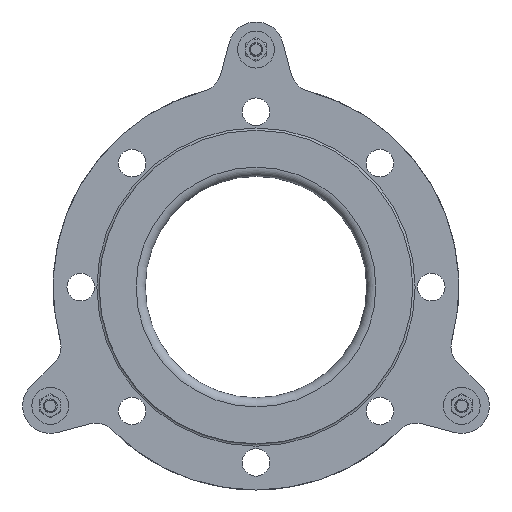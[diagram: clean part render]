
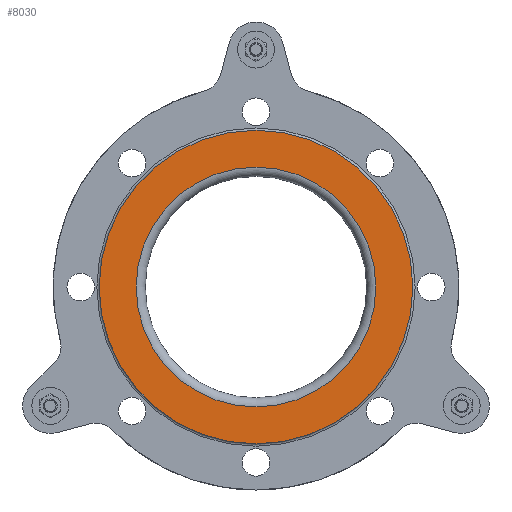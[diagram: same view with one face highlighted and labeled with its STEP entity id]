
A CAD part, left-side view. The second image highlights one B-rep face of the part: STEP entity #8030.
In plain terms, the highlighted planar face has unit normal (-1, 0, 0).
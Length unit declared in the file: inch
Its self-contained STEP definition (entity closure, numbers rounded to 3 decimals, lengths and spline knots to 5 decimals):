
#1359=FACE_BOUND('',#2499,.T.);
#1809=FACE_OUTER_BOUND('',#2498,.T.);
#2498=EDGE_LOOP('',(#6545));
#2499=EDGE_LOOP('',(#6546));
#3009=CIRCLE('',#8933,4.25);
#3010=CIRCLE('',#8935,3.25);
#3648=VERTEX_POINT('',#14304);
#3649=VERTEX_POINT('',#14307);
#4628=EDGE_CURVE('',#3648,#3648,#3009,.T.);
#4629=EDGE_CURVE('',#3649,#3649,#3010,.T.);
#6545=ORIENTED_EDGE('',*,*,#4628,.T.);
#6546=ORIENTED_EDGE('',*,*,#4629,.F.);
#7071=PLANE('',#8934);
#8030=ADVANCED_FACE('',(#1809,#1359),#7071,.T.);
#8933=AXIS2_PLACEMENT_3D('',#14305,#10894,#10895);
#8934=AXIS2_PLACEMENT_3D('',#14306,#10896,#10897);
#8935=AXIS2_PLACEMENT_3D('',#14308,#10898,#10899);
#10894=DIRECTION('center_axis',(-1.,0.,0.));
#10895=DIRECTION('ref_axis',(0.,-1.,0.));
#10896=DIRECTION('center_axis',(-1.,0.,0.));
#10897=DIRECTION('ref_axis',(0.,-1.,0.));
#10898=DIRECTION('center_axis',(-1.,0.,0.));
#10899=DIRECTION('ref_axis',(0.,-1.,0.));
#14304=CARTESIAN_POINT('',(-2.,0.,4.25));
#14305=CARTESIAN_POINT('Origin',(-2.,0.,0.));
#14306=CARTESIAN_POINT('Origin',(-2.,0.,3.25));
#14307=CARTESIAN_POINT('',(-2.,0.,3.25));
#14308=CARTESIAN_POINT('Origin',(-2.,0.,0.));
